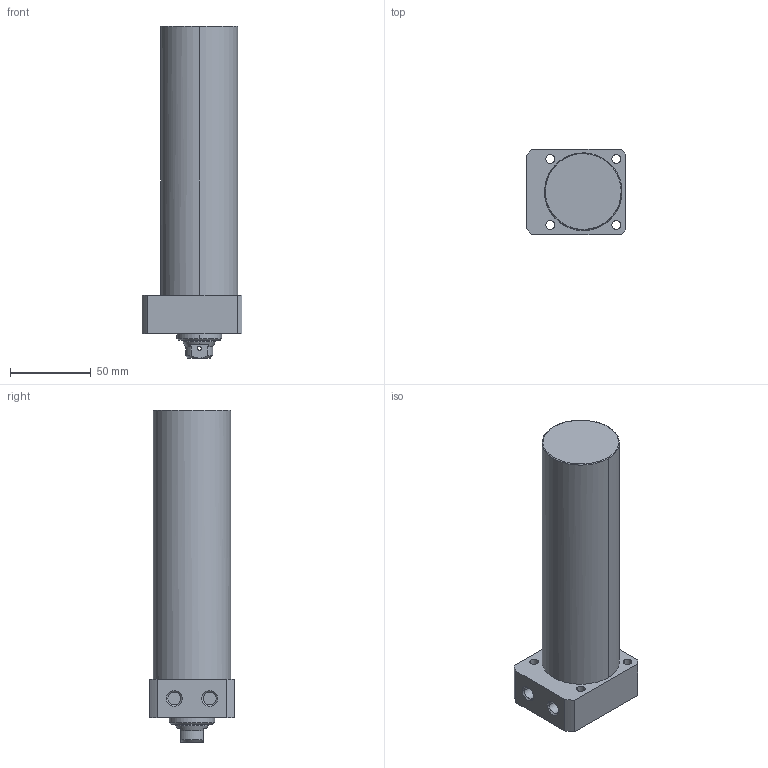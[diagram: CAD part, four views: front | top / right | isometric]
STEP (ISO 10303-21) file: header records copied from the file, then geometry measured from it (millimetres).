
FILE_DESCRIPTION((' '),'2;1');
FILE_NAME( 'TLLR-048CB-140.STEP.stp', '2025-10-24T16:34:35', (' '), ('--- Datakit www.datakit.com---'), ' Datakit CrossCadWare V2024.1 Dec 21 2023', 'Mastercam 2025', ' ');
FILE_SCHEMA(('AUTOMOTIVE_DESIGN { 1 0 10303 214 1 1 1 1 }'));
Length unit declared in the file: millimetre
Products named in the file (1): TLLR-048CB-140
Bounding box: 62 x 53 x 206 mm (x, y, z)
Volume: 380510.3 mm3; surface area: 40585.1 mm2
Topology: 1 solids, 1 shells, 67 faces, 197 edges, 136 vertices
Faces by surface type: cylinder 32, plane 19, cone 14, torus 2
Entity records: 3066 total; most frequent: CARTESIAN_POINT 1147, DIRECTION 426, ORIENTED_EDGE 390, EDGE_CURVE 195, AXIS2_PLACEMENT_3D 179, VERTEX_POINT 136, CIRCLE 111, EDGE_LOOP 85
